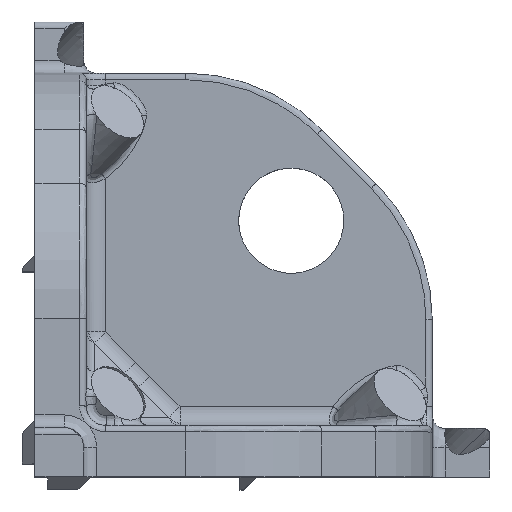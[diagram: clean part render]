
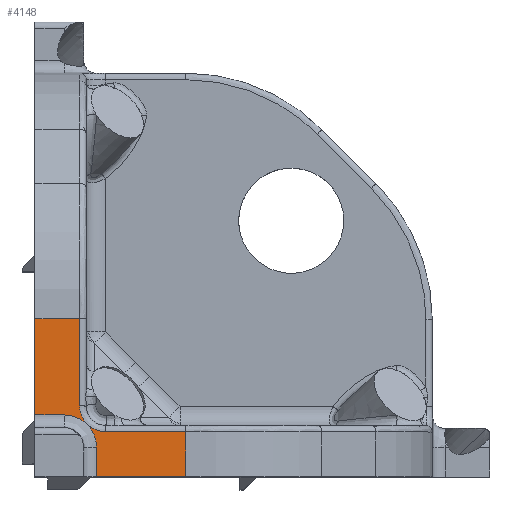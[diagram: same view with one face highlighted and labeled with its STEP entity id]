
A CAD part, top view. The second image highlights one B-rep face of the part: STEP entity #4148.
In plain terms, the highlighted planar face has unit normal (0, 0, 1).
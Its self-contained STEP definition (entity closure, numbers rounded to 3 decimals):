
#5 = CARTESIAN_POINT ( 'NONE',  ( -12.777, -14.181, 13.25 ) ) ;
#34 = VERTEX_POINT ( 'NONE', #1889 ) ;
#168 = B_SPLINE_CURVE_WITH_KNOTS ( 'NONE', 3,
 ( #4638, #5852, #6435, #2949, #7008, #5898, #6988, #2420, #6836, #3540, #7616, #4115, #1749, #598, #4693, #1206, #6459, #1149, #1801, #575 ),
 .UNSPECIFIED., .F., .F.,
 ( 4, 1, 1, 1, 2, 2, 2, 1, 1, 1, 2, 2, 4 ),
 ( 0., 0.125, 0.187, 0.219, 0.234, 0.25, 0.5, 0.625, 0.687, 0.719, 0.734, 0.75, 1. ),
 .UNSPECIFIED. ) ;
#175 = DIRECTION ( 'NONE',  ( 0., 0., 1. ) ) ;
#342 = CARTESIAN_POINT ( 'NONE',  ( -14.25, -5.463, 13.25 ) ) ;
#547 = CARTESIAN_POINT ( 'NONE',  ( -17.75, -5.463, 13.25 ) ) ;
#575 = CARTESIAN_POINT ( 'NONE',  ( -12.95, -15.45, 13.25 ) ) ;
#583 = CARTESIAN_POINT ( 'NONE',  ( -13.762, -13.567, 13.25 ) ) ;
#598 = CARTESIAN_POINT ( 'NONE',  ( -13.184, -14.391, 13.25 ) ) ;
#621 = B_SPLINE_CURVE_WITH_KNOTS ( 'NONE', 3,
 ( #7019, #1163, #1764, #5, #2888, #5865, #6980, #2382, #7545, #5177, #583, #2905, #3460, #3510, #3436, #7599, #4024, #4604, #1107, #6952 ),
 .UNSPECIFIED., .F., .F.,
 ( 4, 1, 1, 1, 2, 2, 2, 1, 1, 1, 2, 2, 4 ),
 ( 0., 0.125, 0.187, 0.219, 0.234, 0.25, 0.5, 0.625, 0.688, 0.719, 0.734, 0.75, 1. ),
 .UNSPECIFIED. ) ;
#849 = LINE ( 'NONE', #2838, #1785 ) ;
#873 = VECTOR ( 'NONE', #7099, 1000. ) ;
#912 = VECTOR ( 'NONE', #5909, 1000. ) ;
#1094 = LINE ( 'NONE', #1871, #912 ) ;
#1107 = CARTESIAN_POINT ( 'NONE',  ( -14.25, -12.505, 13.25 ) ) ;
#1149 = CARTESIAN_POINT ( 'NONE',  ( -13.009, -14.825, 13.25 ) ) ;
#1163 = CARTESIAN_POINT ( 'NONE',  ( -12.377, -14.25, 13.25 ) ) ;
#1206 = CARTESIAN_POINT ( 'NONE',  ( -13.142, -14.49, 13.25 ) ) ;
#1320 = VECTOR ( 'NONE', #4882, 1000. ) ;
#1356 = CARTESIAN_POINT ( 'NONE',  ( -14.25, 0., 13.25 ) ) ;
#1669 = EDGE_CURVE ( 'NONE', #1987, #3704, #621, .T. ) ;
#1749 = CARTESIAN_POINT ( 'NONE',  ( -13.25, -14.257, 13.25 ) ) ;
#1764 = CARTESIAN_POINT ( 'NONE',  ( -12.564, -14.232, 13.25 ) ) ;
#1785 = VECTOR ( 'NONE', #4526, 1000. ) ;
#1795 = EDGE_LOOP ( 'NONE', ( #2417, #6432, #7470, #2208, #6143, #2916, #6976, #3501, #2643, #6016 ) ) ;
#1801 = CARTESIAN_POINT ( 'NONE',  ( -12.95, -15.132, 13.25 ) ) ;
#1871 = CARTESIAN_POINT ( 'NONE',  ( 0., -5.463, 13.25 ) ) ;
#1889 = CARTESIAN_POINT ( 'NONE',  ( -17.75, -12.95, 13.25 ) ) ;
#1901 = LINE ( 'NONE', #5912, #873 ) ;
#1986 = AXIS2_PLACEMENT_3D ( 'NONE', #4890, #175, #4867 ) ;
#1987 = VERTEX_POINT ( 'NONE', #5286 ) ;
#2065 = EDGE_CURVE ( 'NONE', #5528, #2490, #1094, .T. ) ;
#2208 = ORIENTED_EDGE ( 'NONE', *, *, #4536, .T. ) ;
#2382 = CARTESIAN_POINT ( 'NONE',  ( -12.97, -14.116, 13.25 ) ) ;
#2399 = LINE ( 'NONE', #6017, #2840 ) ;
#2417 = ORIENTED_EDGE ( 'NONE', *, *, #6790, .T. ) ;
#2420 = CARTESIAN_POINT ( 'NONE',  ( -14.55, -13.118, 13.25 ) ) ;
#2490 = VERTEX_POINT ( 'NONE', #547 ) ;
#2643 = ORIENTED_EDGE ( 'NONE', *, *, #5173, .T. ) ;
#2838 = CARTESIAN_POINT ( 'NONE',  ( 0., -14.25, 13.25 ) ) ;
#2840 = VECTOR ( 'NONE', #7080, 1000. ) ;
#2856 = LINE ( 'NONE', #1356, #3031 ) ;
#2882 = CARTESIAN_POINT ( 'NONE',  ( -12.95, -15.45, 13.25 ) ) ;
#2888 = CARTESIAN_POINT ( 'NONE',  ( -12.882, -14.148, 13.25 ) ) ;
#2905 = CARTESIAN_POINT ( 'NONE',  ( -13.891, -13.409, 13.25 ) ) ;
#2916 = ORIENTED_EDGE ( 'NONE', *, *, #6079, .T. ) ;
#2949 = CARTESIAN_POINT ( 'NONE',  ( -14.791, -13.036, 13.25 ) ) ;
#3031 = VECTOR ( 'NONE', #6574, 1000. ) ;
#3109 = PLANE ( 'NONE',  #1986 ) ;
#3373 = CARTESIAN_POINT ( 'NONE',  ( -17.75, -17.75, 13.25 ) ) ;
#3392 = VERTEX_POINT ( 'NONE', #6131 ) ;
#3436 = CARTESIAN_POINT ( 'NONE',  ( -14.083, -13.05, 13.25 ) ) ;
#3437 = VERTEX_POINT ( 'NONE', #6665 ) ;
#3460 = CARTESIAN_POINT ( 'NONE',  ( -14.01, -13.204, 13.25 ) ) ;
#3501 = ORIENTED_EDGE ( 'NONE', *, *, #3891, .T. ) ;
#3510 = CARTESIAN_POINT ( 'NONE',  ( -14.062, -13.097, 13.25 ) ) ;
#3540 = CARTESIAN_POINT ( 'NONE',  ( -13.926, -13.438, 13.25 ) ) ;
#3591 = CARTESIAN_POINT ( 'NONE',  ( -5.963, -14.25, 13.25 ) ) ;
#3704 = VERTEX_POINT ( 'NONE', #5046 ) ;
#3789 = CARTESIAN_POINT ( 'NONE',  ( -5.963, 0., 13.25 ) ) ;
#3891 = EDGE_CURVE ( 'NONE', #3437, #5219, #168, .T. ) ;
#3967 = DIRECTION ( 'NONE',  ( 0., -1., 0. ) ) ;
#4007 = EDGE_CURVE ( 'NONE', #7048, #3392, #2399, .T. ) ;
#4015 = VERTEX_POINT ( 'NONE', #3591 ) ;
#4024 = CARTESIAN_POINT ( 'NONE',  ( -14.104, -13.001, 13.25 ) ) ;
#4115 = CARTESIAN_POINT ( 'NONE',  ( -13.399, -14.001, 13.25 ) ) ;
#4148 = ADVANCED_FACE ( 'NONE', ( #5788 ), #3109, .T. ) ;
#4443 = CARTESIAN_POINT ( 'NONE',  ( -12.95, -17.75, 13.25 ) ) ;
#4526 = DIRECTION ( 'NONE',  ( -1., 0., 0. ) ) ;
#4536 = EDGE_CURVE ( 'NONE', #3704, #5528, #2856, .T. ) ;
#4604 = CARTESIAN_POINT ( 'NONE',  ( -14.203, -12.75, 13.25 ) ) ;
#4638 = CARTESIAN_POINT ( 'NONE',  ( -15.45, -12.95, 13.25 ) ) ;
#4653 = EDGE_CURVE ( 'NONE', #34, #3437, #7415, .T. ) ;
#4678 = CARTESIAN_POINT ( 'NONE',  ( 0., -12.95, 13.25 ) ) ;
#4693 = CARTESIAN_POINT ( 'NONE',  ( -13.158, -14.45, 13.25 ) ) ;
#4867 = DIRECTION ( 'NONE',  ( 1., 0., 0. ) ) ;
#4882 = DIRECTION ( 'NONE',  ( 0., 1., 0. ) ) ;
#4890 = CARTESIAN_POINT ( 'NONE',  ( 0., 0., 13.25 ) ) ;
#5046 = CARTESIAN_POINT ( 'NONE',  ( -14.25, -12.25, 13.25 ) ) ;
#5173 = EDGE_CURVE ( 'NONE', #5219, #7048, #1901, .T. ) ;
#5177 = CARTESIAN_POINT ( 'NONE',  ( -13.469, -13.859, 13.25 ) ) ;
#5219 = VERTEX_POINT ( 'NONE', #2882 ) ;
#5286 = CARTESIAN_POINT ( 'NONE',  ( -12.25, -14.25, 13.25 ) ) ;
#5528 = VERTEX_POINT ( 'NONE', #342 ) ;
#5788 = FACE_OUTER_BOUND ( 'NONE', #1795, .T. ) ;
#5852 = CARTESIAN_POINT ( 'NONE',  ( -15.291, -12.95, 13.25 ) ) ;
#5865 = CARTESIAN_POINT ( 'NONE',  ( -12.927, -14.132, 13.25 ) ) ;
#5898 = CARTESIAN_POINT ( 'NONE',  ( -14.604, -13.097, 13.25 ) ) ;
#5909 = DIRECTION ( 'NONE',  ( -1., 0., 0. ) ) ;
#5912 = CARTESIAN_POINT ( 'NONE',  ( -12.95, 0., 13.25 ) ) ;
#6016 = ORIENTED_EDGE ( 'NONE', *, *, #4007, .T. ) ;
#6017 = CARTESIAN_POINT ( 'NONE',  ( -17.75, -17.75, 13.25 ) ) ;
#6079 = EDGE_CURVE ( 'NONE', #2490, #34, #6673, .T. ) ;
#6131 = CARTESIAN_POINT ( 'NONE',  ( -5.963, -17.75, 13.25 ) ) ;
#6143 = ORIENTED_EDGE ( 'NONE', *, *, #2065, .T. ) ;
#6411 = VECTOR ( 'NONE', #6947, 1000. ) ;
#6432 = ORIENTED_EDGE ( 'NONE', *, *, #7539, .T. ) ;
#6435 = CARTESIAN_POINT ( 'NONE',  ( -15.057, -12.972, 13.25 ) ) ;
#6459 = CARTESIAN_POINT ( 'NONE',  ( -13.133, -14.511, 13.25 ) ) ;
#6493 = VECTOR ( 'NONE', #3967, 1000. ) ;
#6513 = LINE ( 'NONE', #3789, #1320 ) ;
#6574 = DIRECTION ( 'NONE',  ( 0., 1., 0. ) ) ;
#6665 = CARTESIAN_POINT ( 'NONE',  ( -15.45, -12.95, 13.25 ) ) ;
#6673 = LINE ( 'NONE', #3373, #6493 ) ;
#6790 = EDGE_CURVE ( 'NONE', #3392, #4015, #6513, .T. ) ;
#6836 = CARTESIAN_POINT ( 'NONE',  ( -14.209, -13.252, 13.25 ) ) ;
#6947 = DIRECTION ( 'NONE',  ( 1., 0., 0. ) ) ;
#6952 = CARTESIAN_POINT ( 'NONE',  ( -14.25, -12.25, 13.25 ) ) ;
#6976 = ORIENTED_EDGE ( 'NONE', *, *, #4653, .T. ) ;
#6980 = CARTESIAN_POINT ( 'NONE',  ( -12.957, -14.121, 13.25 ) ) ;
#6988 = CARTESIAN_POINT ( 'NONE',  ( -14.567, -13.111, 13.25 ) ) ;
#7008 = CARTESIAN_POINT ( 'NONE',  ( -14.66, -13.078, 13.25 ) ) ;
#7019 = CARTESIAN_POINT ( 'NONE',  ( -12.25, -14.25, 13.25 ) ) ;
#7048 = VERTEX_POINT ( 'NONE', #4443 ) ;
#7080 = DIRECTION ( 'NONE',  ( 1., 0., 0. ) ) ;
#7099 = DIRECTION ( 'NONE',  ( 0., -1., 0. ) ) ;
#7415 = LINE ( 'NONE', #4678, #6411 ) ;
#7470 = ORIENTED_EDGE ( 'NONE', *, *, #1669, .T. ) ;
#7539 = EDGE_CURVE ( 'NONE', #4015, #1987, #849, .T. ) ;
#7545 = CARTESIAN_POINT ( 'NONE',  ( -13.243, -14.008, 13.25 ) ) ;
#7599 = CARTESIAN_POINT ( 'NONE',  ( -14.097, -13.018, 13.25 ) ) ;
#7616 = CARTESIAN_POINT ( 'NONE',  ( -13.56, -13.804, 13.25 ) ) ;
